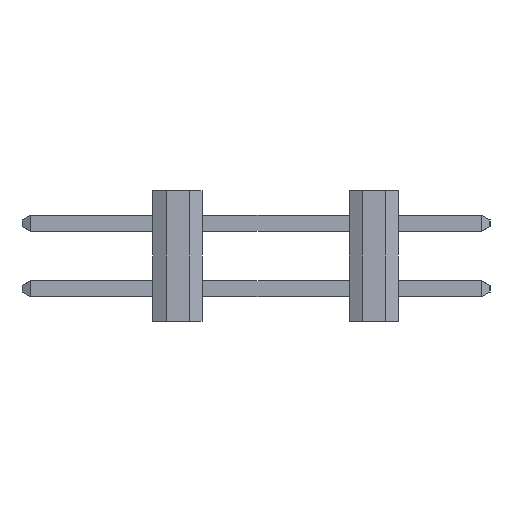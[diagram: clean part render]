
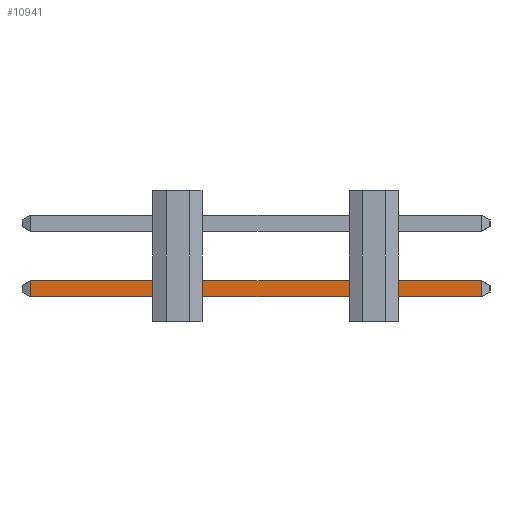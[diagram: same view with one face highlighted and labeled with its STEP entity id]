
A CAD part, left-side view. The second image highlights one B-rep face of the part: STEP entity #10941.
In plain terms, the highlighted planar face has unit normal (-1, 0, 0).
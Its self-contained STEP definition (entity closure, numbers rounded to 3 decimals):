
#545 = VERTEX_POINT ( 'NONE', #7762 ) ;
#1339 = EDGE_LOOP ( 'NONE', ( #8768, #8769, #8770, #8771 ) ) ;
#2091 = DIRECTION ( 'NONE',  ( 0., 0., -1. ) ) ;
#2096 = CARTESIAN_POINT ( 'NONE',  ( -14.764, 28.335, 0.25 ) ) ;
#2112 = LINE ( 'NONE', #2096, #15537 ) ;
#2199 = DIRECTION ( 'NONE',  ( 0., 1., 0. ) ) ;
#2209 = CARTESIAN_POINT ( 'NONE',  ( -14.764, 33.875, 0. ) ) ;
#2225 = LINE ( 'NONE', #2209, #15542 ) ;
#2234 = DIRECTION ( 'NONE',  ( 0., -1., 0. ) ) ;
#2243 = CARTESIAN_POINT ( 'NONE',  ( -14.764, 33.875, 0.5 ) ) ;
#2258 = LINE ( 'NONE', #2243, #15543 ) ;
#2371 = DIRECTION ( 'NONE',  ( 0., 0., 1. ) ) ;
#2374 = CARTESIAN_POINT ( 'NONE',  ( -14.764, 42.115, 0.25 ) ) ;
#2386 = LINE ( 'NONE', #2374, #15548 ) ;
#4859 = AXIS2_PLACEMENT_3D ( 'NONE', #6969, #6963, #6962 ) ;
#6962 = DIRECTION ( 'NONE',  ( 0., 1., 0. ) ) ;
#6963 = DIRECTION ( 'NONE',  ( 1., 0., 0. ) ) ;
#6965 = FACE_OUTER_BOUND ( 'NONE', #1339, .T. ) ;
#6969 = CARTESIAN_POINT ( 'NONE',  ( -14.764, 28.335, 0. ) ) ;
#6975 = PLANE ( 'NONE',  #4859 ) ;
#7762 = CARTESIAN_POINT ( 'NONE',  ( -14.764, 28.335, 0.5 ) ) ;
#8768 = ORIENTED_EDGE ( 'NONE', *, *, #14356, .F. ) ;
#8769 = ORIENTED_EDGE ( 'NONE', *, *, #14351, .F. ) ;
#8770 = ORIENTED_EDGE ( 'NONE', *, *, #14357, .F. ) ;
#8771 = ORIENTED_EDGE ( 'NONE', *, *, #14362, .F. ) ;
#9604 = CARTESIAN_POINT ( 'NONE',  ( -14.764, 28.335, 0. ) ) ;
#9661 = CARTESIAN_POINT ( 'NONE',  ( -14.764, 42.115, 0.5 ) ) ;
#9852 = CARTESIAN_POINT ( 'NONE',  ( -14.764, 42.115, 0. ) ) ;
#10941 = ADVANCED_FACE ( 'NONE', ( #6965 ), #6975, .F. ) ;
#12281 = VERTEX_POINT ( 'NONE', #9852 ) ;
#12567 = VERTEX_POINT ( 'NONE', #9661 ) ;
#13315 = VERTEX_POINT ( 'NONE', #9604 ) ;
#14351 = EDGE_CURVE ( 'NONE', #12281, #12567, #2386, .T. ) ;
#14356 = EDGE_CURVE ( 'NONE', #12567, #545, #2258, .T. ) ;
#14357 = EDGE_CURVE ( 'NONE', #13315, #12281, #2225, .T. ) ;
#14362 = EDGE_CURVE ( 'NONE', #545, #13315, #2112, .T. ) ;
#15537 = VECTOR ( 'NONE', #2091, 1000. ) ;
#15542 = VECTOR ( 'NONE', #2199, 1000. ) ;
#15543 = VECTOR ( 'NONE', #2234, 1000. ) ;
#15548 = VECTOR ( 'NONE', #2371, 1000. ) ;
